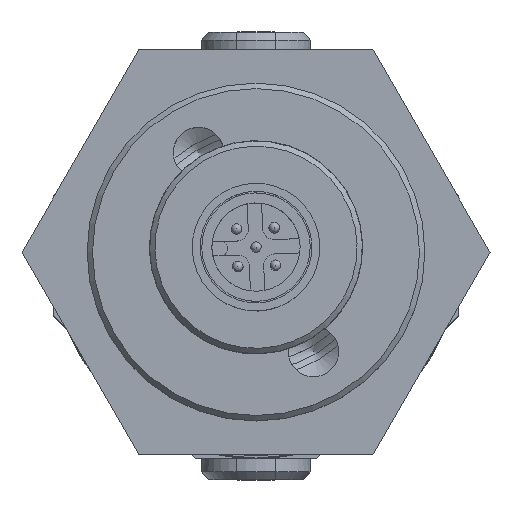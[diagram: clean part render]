
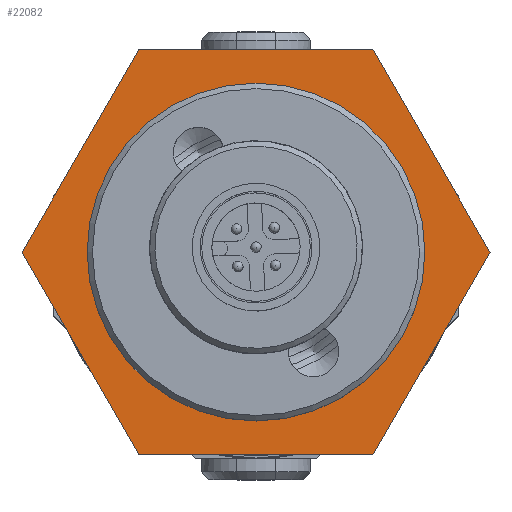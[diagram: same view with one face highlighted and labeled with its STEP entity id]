
A CAD part, top view. The second image highlights one B-rep face of the part: STEP entity #22082.
In plain terms, the highlighted planar face has unit normal (0, 0, 1).
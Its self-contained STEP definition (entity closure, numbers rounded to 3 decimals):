
#2418=LINE($,#94883,#3582);
#2423=LINE($,#94893,#3587);
#2427=LINE($,#94901,#3591);
#2431=LINE($,#94909,#3595);
#2435=LINE($,#94917,#3599);
#2438=LINE($,#94922,#3602);
#3582=VECTOR($,#27528,21.997);
#3587=VECTOR($,#27535,21.997);
#3591=VECTOR($,#27541,21.997);
#3595=VECTOR($,#27547,21.997);
#3599=VECTOR($,#27553,21.997);
#3602=VECTOR($,#27558,21.997);
#4378=PLANE($,#23696);
#4870=FACE_BOUND($,#7552,.T.);
#5941=FACE_OUTER_BOUND($,#7551,.T.);
#7551=EDGE_LOOP($,(#18148,#18149,#18150,#18151,#18152,#18153));
#7552=EDGE_LOOP($,(#18154));
#8427=CIRCLE($,#23613,15.875);
#10127=VERTEX_POINT($,#94664);
#10170=VERTEX_POINT($,#94880);
#10171=VERTEX_POINT($,#94882);
#10175=VERTEX_POINT($,#94891);
#10178=VERTEX_POINT($,#94899);
#10181=VERTEX_POINT($,#94907);
#10184=VERTEX_POINT($,#94915);
#12838=EDGE_CURVE($,#10127,#10127,#8427,.T.);
#12908=EDGE_CURVE($,#10171,#10170,#2418,.T.);
#12913=EDGE_CURVE($,#10170,#10175,#2423,.T.);
#12917=EDGE_CURVE($,#10175,#10178,#2427,.T.);
#12921=EDGE_CURVE($,#10178,#10181,#2431,.T.);
#12925=EDGE_CURVE($,#10181,#10184,#2435,.T.);
#12928=EDGE_CURVE($,#10184,#10171,#2438,.T.);
#18148=ORIENTED_EDGE($,*,*,#12908,.T.);
#18149=ORIENTED_EDGE($,*,*,#12913,.T.);
#18150=ORIENTED_EDGE($,*,*,#12917,.T.);
#18151=ORIENTED_EDGE($,*,*,#12921,.T.);
#18152=ORIENTED_EDGE($,*,*,#12925,.T.);
#18153=ORIENTED_EDGE($,*,*,#12928,.T.);
#18154=ORIENTED_EDGE($,*,*,#12838,.F.);
#22082=ADVANCED_FACE($,(#5941,#4870),#4378,.T.);
#23613=AXIS2_PLACEMENT_3D($,#94665,#27370,#27371);
#23696=AXIS2_PLACEMENT_3D($,#94930,#27568,#27569);
#27370=DIRECTION('center_axis',(0.,0.,1.));
#27371=DIRECTION('ref_axis',(0.5,-0.866,0.));
#27528=DIRECTION($,(0.5,0.866,0.));
#27535=DIRECTION($,(-0.5,0.866,0.));
#27541=DIRECTION($,(-1.,0.,0.));
#27547=DIRECTION($,(-0.5,-0.866,0.));
#27553=DIRECTION($,(0.5,-0.866,0.));
#27558=DIRECTION($,(1.,0.,0.));
#27568=DIRECTION('center_axis',(0.,0.,1.));
#27569=DIRECTION('ref_axis',(-1.,0.,0.));
#94664=CARTESIAN_POINT('',(-7.938,13.748,31.75));
#94665=CARTESIAN_POINT('Origin',(0.,0.,
31.75));
#94880=CARTESIAN_POINT('',(21.997,0.,31.75));
#94882=CARTESIAN_POINT('',(10.999,-19.05,31.75));
#94883=CARTESIAN_POINT($,(21.997,0.,31.75));
#94891=CARTESIAN_POINT('',(10.999,19.05,31.75));
#94893=CARTESIAN_POINT($,(10.999,19.05,31.75));
#94899=CARTESIAN_POINT('',(-10.999,19.05,31.75));
#94901=CARTESIAN_POINT($,(-10.999,19.05,31.75));
#94907=CARTESIAN_POINT('',(-21.997,0.,31.75));
#94909=CARTESIAN_POINT($,(-21.997,0.,31.75));
#94915=CARTESIAN_POINT('',(-10.999,-19.05,31.75));
#94917=CARTESIAN_POINT($,(-10.999,-19.05,31.75));
#94922=CARTESIAN_POINT($,(10.999,-19.05,31.75));
#94930=CARTESIAN_POINT('Origin',(0.,0.,
31.75));
